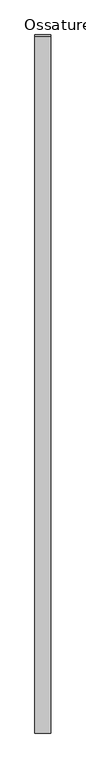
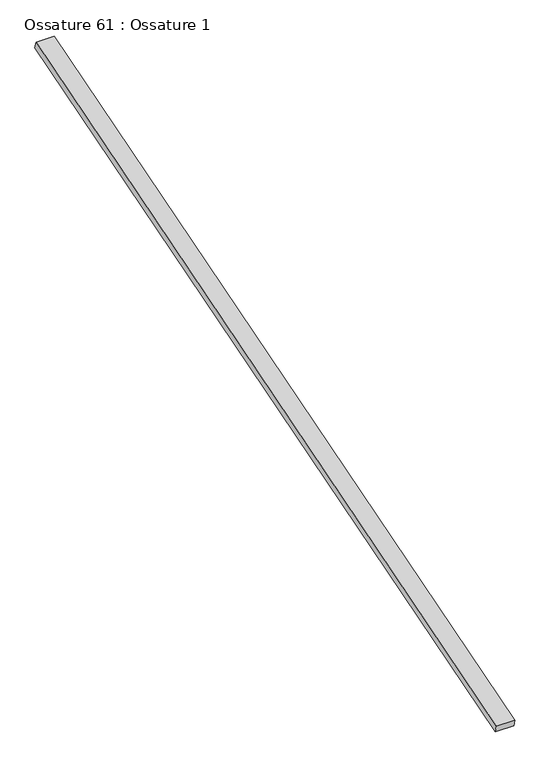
"""IFC4 building model written with IfcOpenShell, lengths in millimetres: beam geometry, Ossature 61 : Ossature 1."""

import ifcopenshell
import ifcopenshell.guid

model = None  # the IFC model being written
_history = None  # IfcOwnerHistory: only IFC2X3 demands one
_inside = {}  # id of a spatial element -> (the spatial element, [elements in it])
_under = {}  # id of a project, library or spatial element -> (it, [spatial elements below it])
_declared = {}  # id of a project -> (the project, [libraries it declares])
_typed = {}  # id of a type object -> (the type object, [elements of that type])
_made_of = {}  # id of a material, layer set ... -> (it, [elements and type objects made of it])


def new_model(schema):
    """Start an empty IFC model of exactly this schema.

    Asked for "IFC4X3", IfcOpenShell would pick the latest addendum, in which some entities
    have other attributes; the version numbers below select the first issue.
    IFC2X3 requires an IfcOwnerHistory on every rooted entity: one is made here for all.
    """
    global model, _history
    if schema == "IFC4X3":
        model = ifcopenshell.file(schema_version=(4, 3, 0, 0))
    else:
        model = ifcopenshell.file(schema=schema)
    _inside.clear()
    _under.clear()
    _declared.clear()
    _typed.clear()
    _made_of.clear()
    _history = None
    if model.schema == "IFC2X3":
        org = make("IfcOrganization", Name="unknown")
        user = make(
            "IfcPersonAndOrganization",
            ThePerson=make("IfcPerson", FamilyName="unknown"),
            TheOrganization=org,
        )
        app = make(
            "IfcApplication",
            ApplicationDeveloper=org,
            Version="unknown",
            ApplicationFullName="unknown",
            ApplicationIdentifier="unknown",
        )
        _history = make(
            "IfcOwnerHistory",
            OwningUser=user,
            OwningApplication=app,
            ChangeAction="ADDED",
            CreationDate=0,
        )
    return model


def make(cls, **values):
    """One entity of the class cls with the attributes given. An attribute that is None is left unset."""
    return model.create_entity(
        cls, **{name: value for name, value in values.items() if value is not None}
    )


def rooted(cls, **values):
    """An entity with a GlobalId (a new one), such as an element, a storey or a relation."""
    return make(cls, GlobalId=ifcopenshell.guid.new(), OwnerHistory=_history, **values)


def si_unit(unit_type, name, prefix=None):
    """IfcSIUnit, for example si_unit("LENGTHUNIT", "METRE", prefix="MILLI")."""
    return make("IfcSIUnit", UnitType=unit_type, Prefix=prefix, Name=name)


def assignment(units):
    """IfcUnitAssignment: the units of a project."""
    return None if units is None else make("IfcUnitAssignment", Units=units)


def point(xyz):
    """IfcCartesianPoint."""
    return None if xyz is None else make("IfcCartesianPoint", Coordinates=xyz)


def direction(xyz):
    """IfcDirection."""
    return None if xyz is None else make("IfcDirection", DirectionRatios=xyz)


def frame(location, z_axis=None, x_axis=None):
    """IfcAxis2Placement3D, a coordinate frame: its origin and axes. An axis left out is left unset."""
    return make(
        "IfcAxis2Placement3D",
        Location=point(location),
        Axis=direction(z_axis),
        RefDirection=direction(x_axis),
    )


def origin():
    """The frame at (0, 0, 0) with its axes left unset."""
    return frame((0.0, 0.0, 0.0))


def place(relative_to, where):
    """IfcLocalPlacement: puts the frame where relative to a parent placement (None: the world)."""
    return make(
        "IfcLocalPlacement", PlacementRelTo=relative_to, RelativePlacement=where
    )


def context(
    kind, dimensions, precision=None, world=None, true_north=None, identifier=None
):
    """IfcGeometricRepresentationContext, for example the 3D "Model" context."""
    return make(
        "IfcGeometricRepresentationContext",
        ContextIdentifier=identifier,
        ContextType=kind,
        CoordinateSpaceDimension=dimensions,
        Precision=precision,
        WorldCoordinateSystem=world,
        TrueNorth=true_north,
    )


def project(units=None, contexts=None):
    """IfcProject with its units and contexts."""
    return rooted(
        "IfcProject",
        Name="project",
        RepresentationContexts=contexts,
        UnitsInContext=assignment(units),
    )


def spatial(cls, under=None, at=None, **own):
    """A site, building, storey or space (cls), placed at a placement, below another one or the project."""
    s = rooted(cls, ObjectPlacement=at, **own)
    if under is not None:
        _under.setdefault(under.id(), (under, []))[1].append(s)
    return s


def polyline(points):
    """IfcPolyline through the points."""
    return make("IfcPolyline", Points=[point(p) for p in points])


def outline(outer, holes=None, kind="AREA"):
    """IfcArbitraryClosedProfileDef: a profile drawn as a closed curve; with holes, ...WithVoids."""
    if holes is None:
        return make("IfcArbitraryClosedProfileDef", ProfileType=kind, OuterCurve=outer)
    return make(
        "IfcArbitraryProfileDefWithVoids",
        ProfileType=kind,
        OuterCurve=outer,
        InnerCurves=holes,
    )


def extrude(swept, where, along, depth):
    """IfcExtrudedAreaSolid: the profile swept, set in the frame where, extruded along a direction by depth."""
    return make(
        "IfcExtrudedAreaSolid",
        SweptArea=swept,
        Position=where,
        ExtrudedDirection=direction(along),
        Depth=depth,
    )


def shape(context_of_items, identifier, shape_type, items):
    """IfcShapeRepresentation: the items that make up one representation, for example the "Body"."""
    return make(
        "IfcShapeRepresentation",
        ContextOfItems=context_of_items,
        RepresentationIdentifier=identifier,
        RepresentationType=shape_type,
        Items=items,
    )


def source(mapping_origin, context_of_items, identifier, shape_type, items):
    """IfcRepresentationMap: a shape defined once, which mapped items show again and again."""
    return make(
        "IfcRepresentationMap",
        MappingOrigin=mapping_origin,
        MappedRepresentation=shape(context_of_items, identifier, shape_type, items),
    )


def transform(
    local_origin,
    x_axis=None,
    y_axis=None,
    z_axis=None,
    scale=None,
    scale2=None,
    scale3=None,
    uniform=True,
):
    """IfcCartesianTransformationOperator3D, or its non-uniform kind. x_axis, y_axis, z_axis: its Axis1, 2, 3."""
    if uniform:
        return make(
            "IfcCartesianTransformationOperator3D",
            Axis1=direction(x_axis),
            Axis2=direction(y_axis),
            LocalOrigin=point(local_origin),
            Scale=scale,
            Axis3=direction(z_axis),
        )
    return make(
        "IfcCartesianTransformationOperator3DnonUniform",
        Axis1=direction(x_axis),
        Axis2=direction(y_axis),
        LocalOrigin=point(local_origin),
        Scale=scale,
        Axis3=direction(z_axis),
        Scale2=scale2,
        Scale3=scale3,
    )


def mapped(mapping_source, mapping_target):
    """IfcMappedItem: shows the shape of a source again, moved by a transform."""
    return make(
        "IfcMappedItem", MappingSource=mapping_source, MappingTarget=mapping_target
    )


def made_of(thing, what):
    """Note that an element or type object is made of a material, layer set ...; save() writes the relation."""
    if what is not None:
        _made_of.setdefault(what.id(), (what, []))[1].append(thing)
    return thing


def element(
    cls,
    number,
    at=None,
    inside=None,
    cuts=None,
    type_object=None,
    material=None,
    context=None,
    identifier="Body",
    shape_type=None,
    held_by="IfcProductDefinitionShape",
    body=None,
    shapes=None,
    **own,
):
    """One element of the class cls, such as IfcWall. Its Tag is "e" and its number.

    at: its placement. inside: the storey or other place that contains it. cuts: it is an
    opening in that element (IfcRelVoidsElement). A single representation is given by context,
    identifier, shape_type and body (its items); several are given by shapes. held_by: the class
    of the entity that holds the representations. save() writes the other relations.
    """
    e = rooted(cls, Tag="e%d" % number, ObjectPlacement=at, **own)
    if body is not None:
        shapes = [shape(context, identifier, shape_type, body)]
    if shapes is not None:
        e.Representation = make(held_by, Representations=shapes)
    if inside is not None:
        _inside.setdefault(inside.id(), (inside, []))[1].append(e)
    if cuts is not None:
        rooted(
            "IfcRelVoidsElement", RelatingBuildingElement=cuts, RelatedOpeningElement=e
        )
    if type_object is not None:
        _typed.setdefault(type_object.id(), (type_object, []))[1].append(e)
    return made_of(e, material)


def aggregate(whole, parts):
    """IfcRelAggregates: a whole, such as a stair, and the parts it consists of."""
    return rooted("IfcRelAggregates", RelatingObject=whole, RelatedObjects=parts)


def save(model, path):
    """Write the relations noted so far, then the file.

    IfcRelAggregates (storeys below a building ...), IfcRelContainedInSpatialStructure (elements
    in a storey), IfcRelDefinesByType, IfcRelAssociatesMaterial and IfcRelDeclares: one each for
    every whole, place, type object, material and project.
    """
    for whole, parts in _under.values():
        aggregate(whole, parts)
    for where, things in _inside.values():
        rooted(
            "IfcRelContainedInSpatialStructure",
            RelatedElements=things,
            RelatingStructure=where,
        )
    for kind, things in _typed.values():
        rooted("IfcRelDefinesByType", RelatedObjects=things, RelatingType=kind)
    for what, things in _made_of.values():
        rooted("IfcRelAssociatesMaterial", RelatedObjects=things, RelatingMaterial=what)
    for by, libraries in _declared.values():
        rooted("IfcRelDeclares", RelatingContext=by, RelatedDefinitions=libraries)
    model.write(path)


def ossature_61_ossature_1_271e53da(model_context):
    return source(origin(), model_context, "Body", "SweptSolid", [
        extrude(outline(polyline([(0.0, 0.0), (0.0, -4543.0299679), (-100.0, -4543.0299679), (-100.0, 0.0), (0.0, 0.0)])), frame((14821.4466393, -833.3913565, 8153.6336115), z_axis=(0.0, -0.28734788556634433, 0.9578262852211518), x_axis=(-1.0, 0.0, 0.0)), (0.0, 0.0, 1.0), 40.0),
    ])


if __name__ == "__main__":
    model = new_model("IFC4")
    model_context = context("Model", 3, world=origin())
    ifc_project = project(units=[si_unit("LENGTHUNIT", "METRE", prefix="MILLI")], contexts=[model_context])
    site = spatial("IfcSite", under=ifc_project)
    building = spatial("IfcBuilding", under=site)
    placement = place(None, origin())
    ossature_61_ossature_1_shape = ossature_61_ossature_1_271e53da(model_context)
    element("IfcBeam", 1, ObjectType="Ossature 61 : Ossature 1", at=placement, inside=building, context=model_context, shape_type="MappedRepresentation", body=[
        mapped(ossature_61_ossature_1_shape, transform((0.0, 0.0, 0.0), x_axis=(1.0, 0.0, 0.0), y_axis=(0.0, 1.0, 0.0), z_axis=(0.0, 0.0, 1.0))),
    ])
    save(model, "model.ifc")
